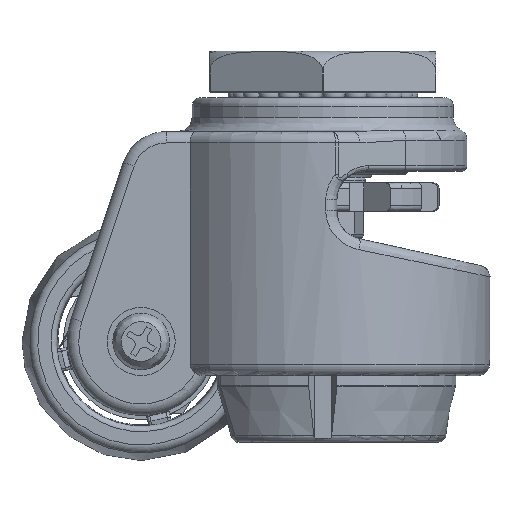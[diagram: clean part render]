
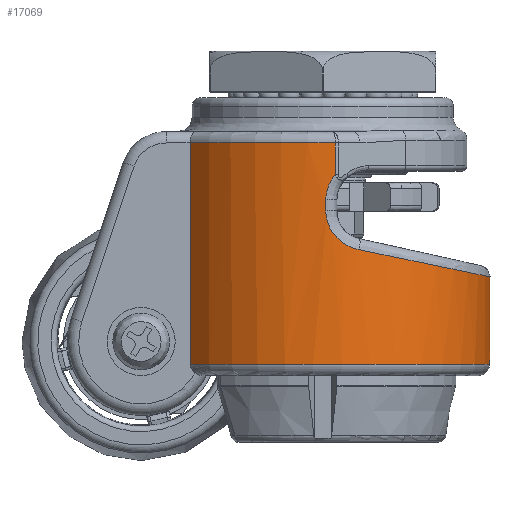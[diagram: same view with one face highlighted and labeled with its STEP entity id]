
A CAD part, front view. The second image highlights one B-rep face of the part: STEP entity #17069.
In plain terms, the highlighted cylindrical face has radius 29.5 mm (diameter 59 mm), a partial arc.
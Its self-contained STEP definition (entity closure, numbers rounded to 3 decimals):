
#14764=CARTESIAN_POINT('',(-23.372,18.0,-41.));
#14765=VERTEX_POINT('',#14764);
#14782=CARTESIAN_POINT('',(-23.372,-18.0,-41.));
#14783=VERTEX_POINT('',#14782);
#14784=CARTESIAN_POINT('',(0.0,0.0,-41.));
#14785=DIRECTION('',(0.0,0.0,-1.0));
#14786=DIRECTION('',(-1.0,0.0,0.0));
#14787=AXIS2_PLACEMENT_3D('',#14784,#14785,#14786);
#14788=CIRCLE('',#14787,29.5);
#14789=EDGE_CURVE('',#14765,#14783,#14788,.T.);
#15197=CARTESIAN_POINT('',(-23.372,18.0,-2.0));
#15198=VERTEX_POINT('',#15197);
#15207=CARTESIAN_POINT('',(-23.372,18.0,-41.));
#15208=DIRECTION('',(0.0,0.0,1.0));
#15209=VECTOR('',#15208,39.);
#15210=LINE('',#15207,#15209);
#15211=EDGE_CURVE('',#14765,#15198,#15210,.T.);
#15545=CARTESIAN_POINT('',(2.224,-29.416,-7.578));
#15546=VERTEX_POINT('',#15545);
#15577=CARTESIAN_POINT('',(0.536,-29.495,-12.));
#15578=VERTEX_POINT('',#15577);
#15579=CARTESIAN_POINT('',(2.224,-29.416,-7.578));
#15580=CARTESIAN_POINT('',(2.145,-29.422,-7.669));
#15581=CARTESIAN_POINT('',(1.873,-29.441,-7.996));
#15582=CARTESIAN_POINT('',(1.461,-29.465,-8.597));
#15583=CARTESIAN_POINT('',(0.918,-29.487,-9.661));
#15584=CARTESIAN_POINT('',(0.596,-29.494,-10.819));
#15585=CARTESIAN_POINT('',(0.536,-29.495,-11.706));
#15586=CARTESIAN_POINT('',(0.536,-29.495,-12.));
#15587=B_SPLINE_CURVE_WITH_KNOTS('',3,(#15579,#15580,#15581,#15582,#15583,#15584,#15585,#15586),.UNSPECIFIED.,.F.,.U.,(4,1,1,1,1,4),(-4.967,-4.932,-4.844,-4.756,-4.58,-4.492),.UNSPECIFIED.);
#15588=EDGE_CURVE('',#15546,#15578,#15587,.T.);
#15665=CARTESIAN_POINT('',(2.224,29.416,-7.578));
#15666=VERTEX_POINT('',#15665);
#15700=CARTESIAN_POINT('',(0.536,29.495,-12.));
#15701=VERTEX_POINT('',#15700);
#15709=CARTESIAN_POINT('',(0.536,29.495,-12.));
#15710=CARTESIAN_POINT('',(0.536,29.495,-11.706));
#15711=CARTESIAN_POINT('',(0.596,29.494,-10.819));
#15712=CARTESIAN_POINT('',(0.918,29.487,-9.661));
#15713=CARTESIAN_POINT('',(1.461,29.465,-8.597));
#15714=CARTESIAN_POINT('',(1.873,29.441,-7.996));
#15715=CARTESIAN_POINT('',(2.145,29.422,-7.669));
#15716=CARTESIAN_POINT('',(2.224,29.416,-7.578));
#15717=B_SPLINE_CURVE_WITH_KNOTS('',3,(#15709,#15710,#15711,#15712,#15713,#15714,#15715,#15716),.UNSPECIFIED.,.F.,.U.,(4,1,1,1,1,4),(-4.492,-4.404,-4.228,-4.14,-4.052,-4.017),.UNSPECIFIED.);
#15718=EDGE_CURVE('',#15701,#15666,#15717,.T.);
#15729=CARTESIAN_POINT('',(0.536,-29.495,-13.989));
#15730=VERTEX_POINT('',#15729);
#15731=CARTESIAN_POINT('',(0.536,-29.495,-12.));
#15732=DIRECTION('',(0.0,0.0,-1.0));
#15733=VECTOR('',#15732,1.989);
#15734=LINE('',#15731,#15733);
#15735=EDGE_CURVE('',#15578,#15730,#15734,.T.);
#15755=CARTESIAN_POINT('',(0.536,29.495,-13.989));
#15756=VERTEX_POINT('',#15755);
#15764=CARTESIAN_POINT('',(0.536,29.495,-13.989));
#15765=DIRECTION('',(0.0,0.0,1.0));
#15766=VECTOR('',#15765,1.989);
#15767=LINE('',#15764,#15766);
#15768=EDGE_CURVE('',#15756,#15701,#15767,.T.);
#15859=CARTESIAN_POINT('',(6.417,-28.794,-20.822));
#15860=VERTEX_POINT('',#15859);
#15861=CARTESIAN_POINT('',(0.536,-29.495,-13.989));
#15862=CARTESIAN_POINT('',(0.536,-29.495,-14.44));
#15863=CARTESIAN_POINT('',(0.631,-29.494,-15.349));
#15864=CARTESIAN_POINT('',(0.981,-29.485,-16.435));
#15865=CARTESIAN_POINT('',(1.391,-29.468,-17.257));
#15866=CARTESIAN_POINT('',(1.763,-29.448,-17.844));
#15867=CARTESIAN_POINT('',(2.19,-29.42,-18.389));
#15868=CARTESIAN_POINT('',(2.836,-29.367,-19.067));
#15869=CARTESIAN_POINT('',(3.775,-29.266,-19.8));
#15870=CARTESIAN_POINT('',(5.038,-29.077,-20.45));
#15871=CARTESIAN_POINT('',(5.956,-28.896,-20.727));
#15872=CARTESIAN_POINT('',(6.417,-28.794,-20.822));
#15873=B_SPLINE_CURVE_WITH_KNOTS('',3,(#15861,#15862,#15863,#15864,#15865,#15866,#15867,#15868,#15869,#15870,#15871,#15872),.UNSPECIFIED.,.F.,.U.,(4,1,1,1,1,1,1,1,1,4),(-0.946,-0.811,-0.676,-0.608,-0.541,-0.473,-0.405,-0.27,-0.135,0.),.UNSPECIFIED.);
#15874=EDGE_CURVE('',#15730,#15860,#15873,.T.);
#15965=CARTESIAN_POINT('',(6.417,28.794,-20.822));
#15966=VERTEX_POINT('',#15965);
#15974=CARTESIAN_POINT('',(6.417,28.794,-20.822));
#15975=CARTESIAN_POINT('',(5.956,28.896,-20.727));
#15976=CARTESIAN_POINT('',(5.039,29.077,-20.45));
#15977=CARTESIAN_POINT('',(3.774,29.266,-19.799));
#15978=CARTESIAN_POINT('',(2.835,29.367,-19.066));
#15979=CARTESIAN_POINT('',(2.19,29.42,-18.389));
#15980=CARTESIAN_POINT('',(1.619,29.458,-17.66));
#15981=CARTESIAN_POINT('',(1.049,29.483,-16.65));
#15982=CARTESIAN_POINT('',(0.632,29.494,-15.35));
#15983=CARTESIAN_POINT('',(0.536,29.495,-14.44));
#15984=CARTESIAN_POINT('',(0.536,29.495,-13.989));
#15985=B_SPLINE_CURVE_WITH_KNOTS('',3,(#15974,#15975,#15976,#15977,#15978,#15979,#15980,#15981,#15982,#15983,#15984),.UNSPECIFIED.,.F.,.U.,(4,1,1,1,1,1,1,1,4),(-0.946,-0.811,-0.676,-0.541,-0.473,-0.405,-0.27,-0.135,0.0),.UNSPECIFIED.);
#15986=EDGE_CURVE('',#15966,#15756,#15985,.T.);
#16116=CARTESIAN_POINT('',(0.0,0.0,-19.493));
#16117=DIRECTION('',(0.203,0.0,0.979));
#16118=DIRECTION('',(0.979,0.0,-0.203));
#16119=AXIS2_PLACEMENT_3D('',#16116,#16117,#16118);
#16120=ELLIPSE('',#16119,30.126,29.5);
#16121=EDGE_CURVE('',#15860,#15966,#16120,.T.);
#16315=CARTESIAN_POINT('',(2.224,29.416,-2.0));
#16316=VERTEX_POINT('',#16315);
#16332=CARTESIAN_POINT('',(2.224,29.416,-7.578));
#16333=DIRECTION('',(0.0,0.0,1.0));
#16334=VECTOR('',#16333,5.578);
#16335=LINE('',#16332,#16334);
#16336=EDGE_CURVE('',#15666,#16316,#16335,.T.);
#17022=CARTESIAN_POINT('',(0.0,0.0,0.0));
#17023=DIRECTION('',(0.0,0.0,-1.0));
#17024=DIRECTION('',(-1.0,0.0,0.0));
#17025=AXIS2_PLACEMENT_3D('',#17022,#17023,#17024);
#17026=CYLINDRICAL_SURFACE('',#17025,29.5);
#17027=CARTESIAN_POINT('',(-23.372,-18.0,-2.0));
#17028=VERTEX_POINT('',#17027);
#17029=CARTESIAN_POINT('',(2.224,-29.416,-2.));
#17030=VERTEX_POINT('',#17029);
#17031=CARTESIAN_POINT('',(0.0,0.0,-2.0));
#17032=DIRECTION('',(0.0,0.0,1.));
#17033=DIRECTION('',(-0.407,-0.913,0.0));
#17034=AXIS2_PLACEMENT_3D('',#17031,#17032,#17033);
#17035=CIRCLE('',#17034,29.5);
#17036=EDGE_CURVE('',#17028,#17030,#17035,.T.);
#17037=ORIENTED_EDGE('',*,*,#17036,.F.);
#17038=CARTESIAN_POINT('',(-23.372,-18.0,-2.0));
#17039=DIRECTION('',(0.0,0.0,-1.0));
#17040=VECTOR('',#17039,39.);
#17041=LINE('',#17038,#17040);
#17042=EDGE_CURVE('',#17028,#14783,#17041,.T.);
#17043=ORIENTED_EDGE('',*,*,#17042,.T.);
#17044=ORIENTED_EDGE('',*,*,#14789,.F.);
#17045=ORIENTED_EDGE('',*,*,#15211,.T.);
#17046=CARTESIAN_POINT('',(0.0,0.0,-2.0));
#17047=DIRECTION('',(0.0,0.0,1.));
#17048=DIRECTION('',(-0.407,0.913,0.0));
#17049=AXIS2_PLACEMENT_3D('',#17046,#17047,#17048);
#17050=CIRCLE('',#17049,29.5);
#17051=EDGE_CURVE('',#16316,#15198,#17050,.T.);
#17052=ORIENTED_EDGE('',*,*,#17051,.F.);
#17053=ORIENTED_EDGE('',*,*,#16336,.F.);
#17054=ORIENTED_EDGE('',*,*,#15718,.F.);
#17055=ORIENTED_EDGE('',*,*,#15768,.F.);
#17056=ORIENTED_EDGE('',*,*,#15986,.F.);
#17057=ORIENTED_EDGE('',*,*,#16121,.F.);
#17058=ORIENTED_EDGE('',*,*,#15874,.F.);
#17059=ORIENTED_EDGE('',*,*,#15735,.F.);
#17060=ORIENTED_EDGE('',*,*,#15588,.F.);
#17061=CARTESIAN_POINT('',(2.224,-29.416,-2.));
#17062=DIRECTION('',(0.0,0.0,-1.0));
#17063=VECTOR('',#17062,5.578);
#17064=LINE('',#17061,#17063);
#17065=EDGE_CURVE('',#17030,#15546,#17064,.T.);
#17066=ORIENTED_EDGE('',*,*,#17065,.F.);
#17067=EDGE_LOOP('',(#17037,#17043,#17044,#17045,#17052,#17053,#17054,#17055,#17056,#17057,#17058,#17059,#17060,#17066));
#17068=FACE_OUTER_BOUND('',#17067,.T.);
#17069=ADVANCED_FACE('',(#17068),#17026,.T.);
